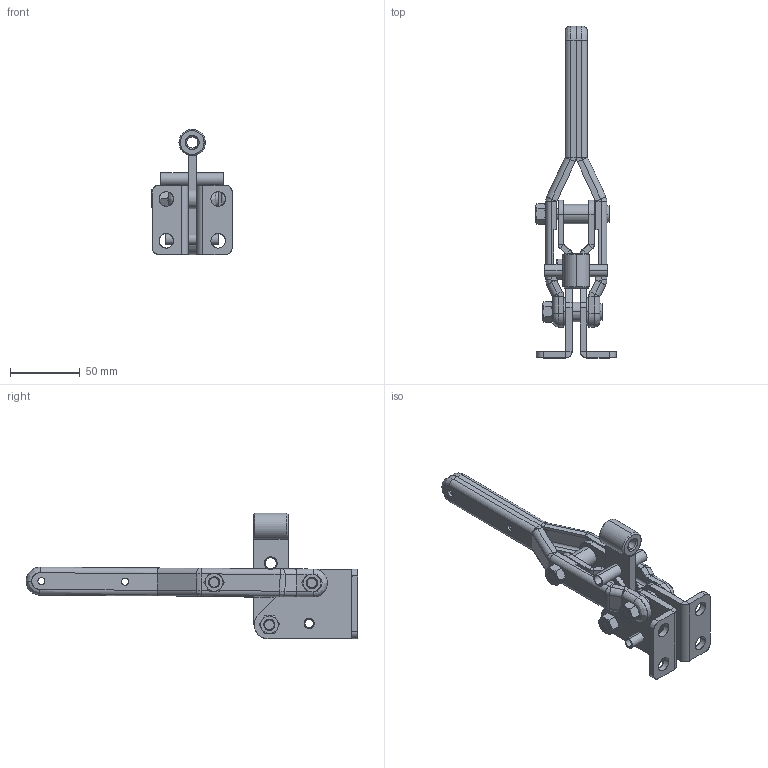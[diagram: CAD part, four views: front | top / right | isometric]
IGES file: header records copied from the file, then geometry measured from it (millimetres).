
Start section: SolidWorks IGES file using analytic representation for surfaces
Global section: file name: D:\GH Files\GH-SW-FILES\GH1\10444, 10448\GH-10444.IGS; native system: SolidWorks 2007; preprocessor: SolidWorks 2007; author: Administrator; date: 061121.145421; units: millimetre
Bounding box: 57.53 x 238 x 90 mm (x, y, z)
Surface area: 74664.4 mm2 (no closed solid volume)
Topology: 0 solids, 0 shells, 1781 faces, 14080 edges, 14080 vertices
Faces by surface type: bspline 1104, revolution 677
